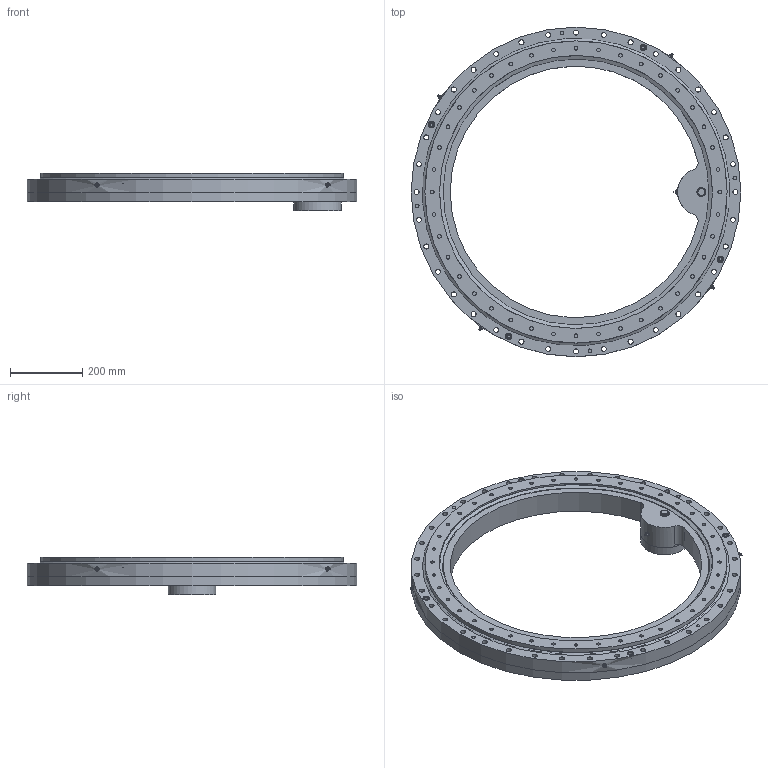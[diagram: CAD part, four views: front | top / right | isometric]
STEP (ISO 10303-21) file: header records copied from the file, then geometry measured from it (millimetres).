
FILE_DESCRIPTION(/* description */ ('STEP AP214'),/* implementation_level */ '2;1');
FILE_NAME(/* name */ '\\Serwer-ad\dnia$\dnia_tomasz_tb\Desktop\Tomcio\1. Cenniki + katalogi + materiały\U- Transmission\Katalogi 2023\Wersja NATECH DRV\Inner gear - slew drive\Our inner gear slew drive STEP\PT-L-0841-I-B-S.stp',/* time_stamp */ '2024-04-30T10:20:44+02:00',/* author */ ('dnia_tomasz_tb'),/* organization */ (''),/* preprocessor_version */ 'ST-DEVELOPER v19',/* originating_system */ 'Autodesk Inventor 2023',/* authorisation */ '');
FILE_SCHEMA (('AUTOMOTIVE_DESIGN { 1 0 10303 214 3 1 1 }'));
Length unit declared in the file: millimetre
Products named in the file (1): PT-L-0841-I-B-S
Bounding box: 915 x 915 x 103 mm (x, y, z)
Surface area: 1381237.6 mm2 (no closed solid volume)
Topology: 0 solids, 49 shells, 324 faces, 954 edges, 677 vertices
Faces by surface type: cylinder 159, plane 133, torus 18, cone 14
Full cylindrical faces by diameter (mm): 2 x4, 8.5 x4, 10 x4, 10.2 x44, 14 x36, 15 x8, 16 x36, 18 x4, 21 x1, 25 x1, 45 x1, 65 x1, 66 x1, 82.58 x1, 132 x1, 758 x1, 839 x1, 915 x2
Entity records: 12476 total; most frequent: CARTESIAN_POINT 2617, DIRECTION 2059, ORIENTED_EDGE 1562, EDGE_CURVE 952, AXIS2_PLACEMENT_3D 792, VERTEX_POINT 677, EDGE_LOOP 611, LINE 475
